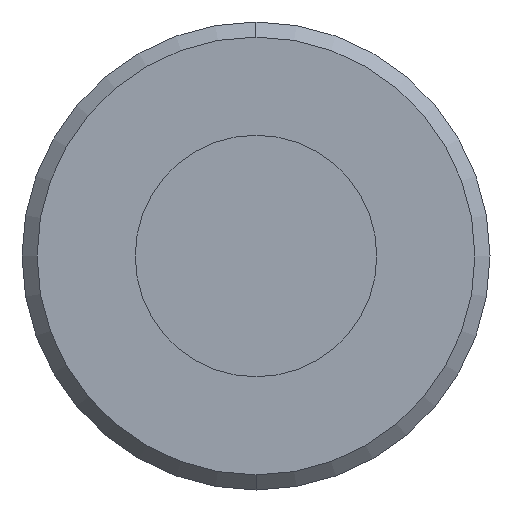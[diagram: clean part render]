
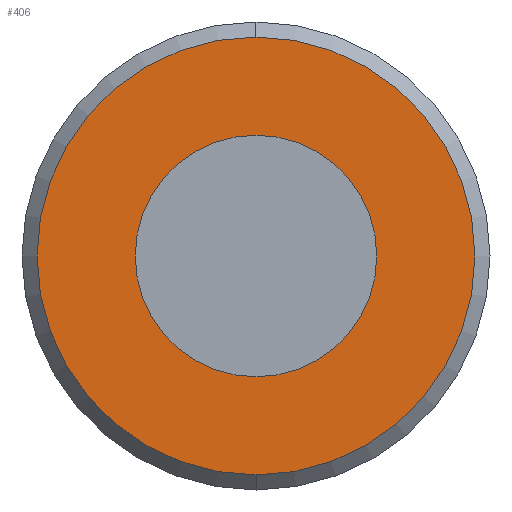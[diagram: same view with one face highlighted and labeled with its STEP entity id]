
A CAD part, left-side view. The second image highlights one B-rep face of the part: STEP entity #406.
In plain terms, the highlighted planar face has unit normal (-1, 0, 0).
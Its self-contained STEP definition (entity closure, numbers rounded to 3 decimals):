
#71 = AXIS2_PLACEMENT_3D ( 'NONE', #887, #400, #727 ) ;
#94 = FACE_OUTER_BOUND ( 'NONE', #110, .T. ) ;
#110 = EDGE_LOOP ( 'NONE', ( #490, #949 ) ) ;
#136 = CARTESIAN_POINT ( 'NONE',  ( 52.8, 0., 0. ) ) ;
#161 = DIRECTION ( 'NONE',  ( -1., 0., 0. ) ) ;
#167 = ORIENTED_EDGE ( 'NONE', *, *, #245, .T. ) ;
#173 = CARTESIAN_POINT ( 'NONE',  ( 52.8, 0., 0. ) ) ;
#189 = CARTESIAN_POINT ( 'NONE',  ( 52.8, 0., 8. ) ) ;
#220 = VERTEX_POINT ( 'NONE', #526 ) ;
#245 = EDGE_CURVE ( 'NONE', #975, #779, #500, .T. ) ;
#275 = DIRECTION ( 'NONE',  ( 1., 0., 0. ) ) ;
#308 = EDGE_CURVE ( 'NONE', #220, #643, #407, .T. ) ;
#370 = AXIS2_PLACEMENT_3D ( 'NONE', #173, #563, #824 ) ;
#380 = FACE_BOUND ( 'NONE', #674, .T. ) ;
#400 = DIRECTION ( 'NONE',  ( 1., 0., 0. ) ) ;
#406 = ADVANCED_FACE ( 'NONE', ( #380, #94 ), #723, .T. ) ;
#407 = CIRCLE ( 'NONE', #71, 14.5 ) ;
#438 = EDGE_CURVE ( 'NONE', #643, #220, #736, .T. ) ;
#490 = ORIENTED_EDGE ( 'NONE', *, *, #438, .F. ) ;
#500 = CIRCLE ( 'NONE', #669, 8. ) ;
#509 = CARTESIAN_POINT ( 'NONE',  ( 52.8, 0., -14.5 ) ) ;
#510 = DIRECTION ( 'NONE',  ( 0., 0., -1. ) ) ;
#526 = CARTESIAN_POINT ( 'NONE',  ( 52.8, 0., 14.5 ) ) ;
#541 = AXIS2_PLACEMENT_3D ( 'NONE', #876, #161, #895 ) ;
#563 = DIRECTION ( 'NONE',  ( 1., 0., 0. ) ) ;
#595 = CARTESIAN_POINT ( 'NONE',  ( 52.8, 0., 0. ) ) ;
#643 = VERTEX_POINT ( 'NONE', #509 ) ;
#669 = AXIS2_PLACEMENT_3D ( 'NONE', #136, #950, #1024 ) ;
#674 = EDGE_LOOP ( 'NONE', ( #167, #978 ) ) ;
#678 = EDGE_CURVE ( 'NONE', #779, #975, #812, .T. ) ;
#723 = PLANE ( 'NONE',  #541 ) ;
#727 = DIRECTION ( 'NONE',  ( 0., 0., -1. ) ) ;
#736 = CIRCLE ( 'NONE', #370, 14.5 ) ;
#779 = VERTEX_POINT ( 'NONE', #189 ) ;
#812 = CIRCLE ( 'NONE', #863, 8. ) ;
#824 = DIRECTION ( 'NONE',  ( 0., 0., -1. ) ) ;
#863 = AXIS2_PLACEMENT_3D ( 'NONE', #595, #275, #510 ) ;
#876 = CARTESIAN_POINT ( 'NONE',  ( 52.8, 14.5, 0. ) ) ;
#887 = CARTESIAN_POINT ( 'NONE',  ( 52.8, 0., 0. ) ) ;
#895 = DIRECTION ( 'NONE',  ( 0., 0., 1. ) ) ;
#949 = ORIENTED_EDGE ( 'NONE', *, *, #308, .F. ) ;
#950 = DIRECTION ( 'NONE',  ( 1., 0., 0. ) ) ;
#975 = VERTEX_POINT ( 'NONE', #1023 ) ;
#978 = ORIENTED_EDGE ( 'NONE', *, *, #678, .T. ) ;
#1023 = CARTESIAN_POINT ( 'NONE',  ( 52.8, 0., -8. ) ) ;
#1024 = DIRECTION ( 'NONE',  ( 0., 0., -1. ) ) ;
